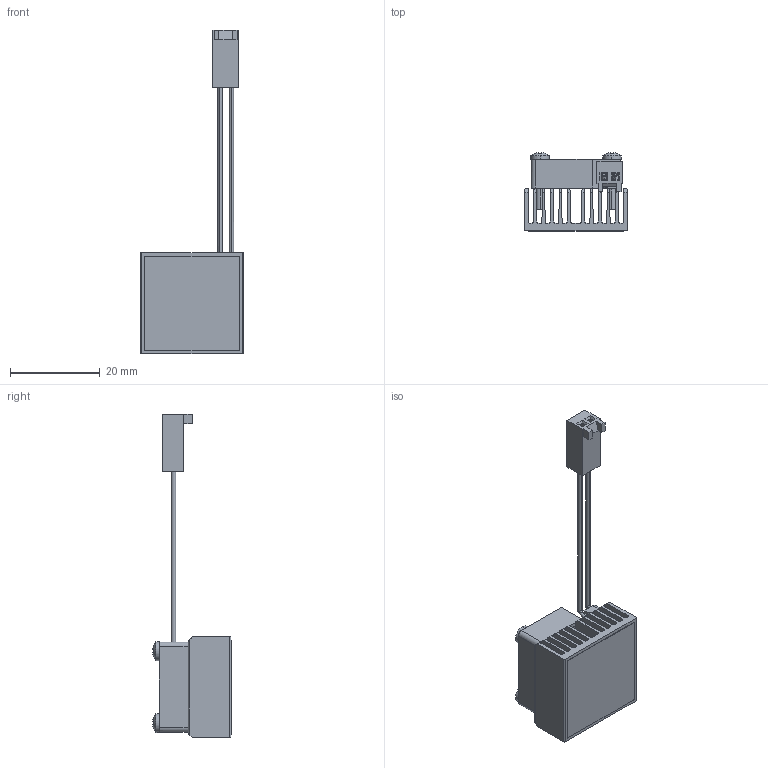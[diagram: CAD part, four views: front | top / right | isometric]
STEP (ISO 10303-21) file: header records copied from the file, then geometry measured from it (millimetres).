
FILE_DESCRIPTION (( 'STEP AP214' ), '1' );
FILE_NAME ('FJ23-1.7.STEP', '2023-03-14T10:27:46', ( '' ), ( '' ), 'SwSTEP 2.0', 'SolidWorks 2020', '' );
FILE_SCHEMA (( 'AUTOMOTIVE_DESIGN' ));
Length unit declared in the file: millimetre
Products named in the file (1): FJ23-1.7
Bounding box: 22.8 x 17.48 x 72 mm (x, y, z)
Volume: 4108.4 mm3; surface area: 9689.4 mm2
Topology: 9 solids, 9 shells, 357 faces, 970 edges, 623 vertices
Faces by surface type: plane 198, cylinder 108, bspline 48, sphere 3
Entity records: 16729 total; most frequent: CARTESIAN_POINT 4189, ORIENTED_EDGE 1890, DIRECTION 1570, EDGE_CURVE 945, VERTEX_POINT 620, LINE 596, VECTOR 596, AXIS2_PLACEMENT_3D 487
